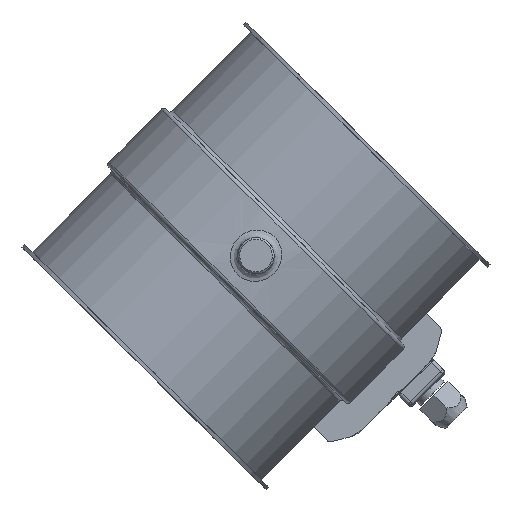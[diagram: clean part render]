
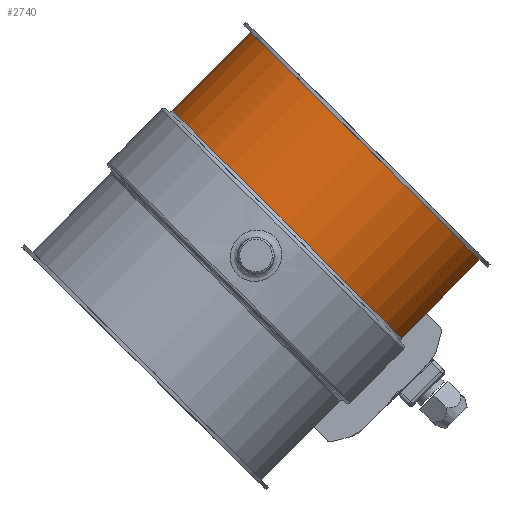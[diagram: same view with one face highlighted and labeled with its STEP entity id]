
A CAD part, top view. The second image highlights one B-rep face of the part: STEP entity #2740.
In plain terms, the highlighted cylindrical face has radius 89 mm (diameter 178 mm), a full revolution.
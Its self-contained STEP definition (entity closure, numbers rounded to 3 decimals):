
#2385=CARTESIAN_POINT('',(0.,173.041,0.));
#2386=VERTEX_POINT('',#2385);
#2387=CARTESIAN_POINT('',(-89.,173.041,0.0));
#2388=DIRECTION('',(0.0,-1.0,0.0));
#2389=DIRECTION('',(1.0,0.0,0.0));
#2390=AXIS2_PLACEMENT_3D('',#2387,#2388,#2389);
#2391=CIRCLE('',#2390,89.);
#2392=EDGE_CURVE('',#2386,#2386,#2391,.T.);
#2461=CARTESIAN_POINT('',(0.,112.041,0.0));
#2462=VERTEX_POINT('',#2461);
#2463=CARTESIAN_POINT('',(-89.,112.041,0.0));
#2464=DIRECTION('',(0.0,-1.0,0.0));
#2465=DIRECTION('',(1.0,0.0,0.0));
#2466=AXIS2_PLACEMENT_3D('',#2463,#2464,#2465);
#2467=CIRCLE('',#2466,89.);
#2468=EDGE_CURVE('',#2462,#2462,#2467,.T.);
#2729=CARTESIAN_POINT('',(-89.,143.541,0.0));
#2730=DIRECTION('',(0.,-1.0,0.0));
#2731=DIRECTION('',(1.0,0.0,0.0));
#2732=AXIS2_PLACEMENT_3D('',#2729,#2730,#2731);
#2733=CYLINDRICAL_SURFACE('',#2732,89.);
#2734=ORIENTED_EDGE('',*,*,#2392,.T.);
#2735=EDGE_LOOP('',(#2734));
#2736=FACE_OUTER_BOUND('',#2735,.T.);
#2737=ORIENTED_EDGE('',*,*,#2468,.F.);
#2738=EDGE_LOOP('',(#2737));
#2739=FACE_BOUND('',#2738,.T.);
#2740=ADVANCED_FACE('',(#2736,#2739),#2733,.T.);
